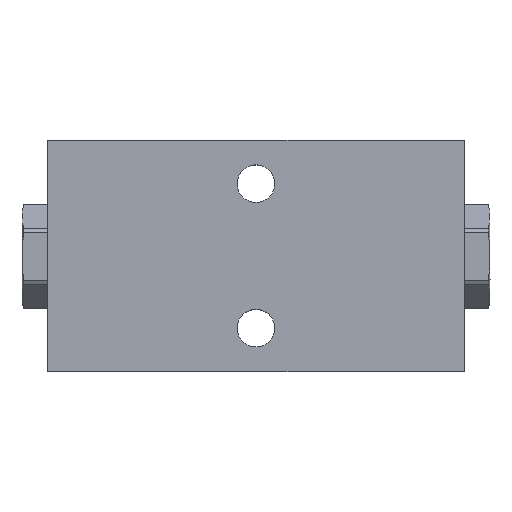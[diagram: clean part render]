
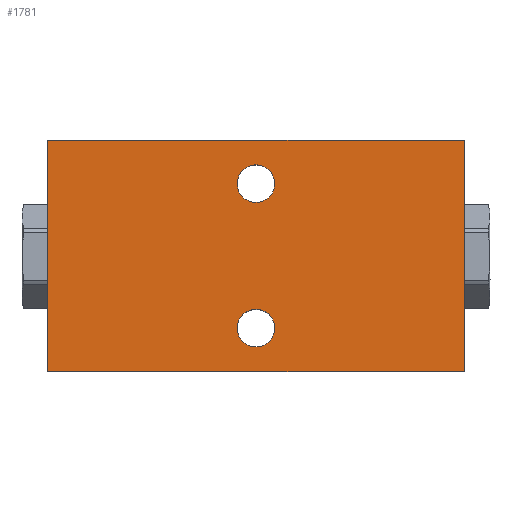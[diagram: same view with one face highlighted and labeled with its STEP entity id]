
A CAD part, top view. The second image highlights one B-rep face of the part: STEP entity #1781.
In plain terms, the highlighted planar face has unit normal (0, 0, 1).
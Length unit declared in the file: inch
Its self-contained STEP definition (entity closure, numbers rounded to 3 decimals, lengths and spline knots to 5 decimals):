
#1=CARTESIAN_POINT('',(2.25,2.03,0.));
#2=DIRECTION('',(0.,0.,1.));
#3=DIRECTION('',(1.,0.,0.));
#4=AXIS2_PLACEMENT_3D('',#1,#2,#3);
#6=CARTESIAN_POINT('',(2.25,2.03,0.));
#7=DIRECTION('',(0.,0.,1.));
#8=DIRECTION('',(-1.,0.,0.));
#9=AXIS2_PLACEMENT_3D('',#6,#7,#8);
#11=CARTESIAN_POINT('',(2.25,0.47,0.));
#12=DIRECTION('',(0.,0.,1.));
#13=DIRECTION('',(1.,0.,0.));
#14=AXIS2_PLACEMENT_3D('',#11,#12,#13);
#16=CARTESIAN_POINT('',(2.25,0.47,0.));
#17=DIRECTION('',(0.,0.,1.));
#18=DIRECTION('',(-1.,0.,0.));
#19=AXIS2_PLACEMENT_3D('',#16,#17,#18);
#21=DIRECTION('',(0.,-1.,0.));
#22=VECTOR('',#21,2.5);
#23=CARTESIAN_POINT('',(0.,2.5,0.));
#24=LINE('',#23,#22);
#49=DIRECTION('',(1.,0.,0.));
#50=VECTOR('',#49,4.5);
#51=CARTESIAN_POINT('',(0.,0.,0.));
#52=LINE('',#51,#50);
#77=DIRECTION('',(0.,1.,0.));
#78=VECTOR('',#77,2.5);
#79=CARTESIAN_POINT('',(4.5,0.,0.));
#80=LINE('',#79,#78);
#95=DIRECTION('',(-1.,0.,0.));
#96=VECTOR('',#95,4.5);
#97=CARTESIAN_POINT('',(4.5,2.5,0.));
#98=LINE('',#97,#96);
#1445=CARTESIAN_POINT('',(0.,2.5,0.));
#1446=CARTESIAN_POINT('',(0.,0.,0.));
#1447=VERTEX_POINT('',#1445);
#1448=VERTEX_POINT('',#1446);
#1449=CARTESIAN_POINT('',(4.5,2.5,0.));
#1450=VERTEX_POINT('',#1449);
#1451=CARTESIAN_POINT('',(4.5,0.,0.));
#1452=VERTEX_POINT('',#1451);
#1453=CARTESIAN_POINT('',(2.453,2.03,0.));
#1454=CARTESIAN_POINT('',(2.047,2.03,0.));
#1455=VERTEX_POINT('',#1453);
#1456=VERTEX_POINT('',#1454);
#1457=CARTESIAN_POINT('',(2.453,0.47,0.));
#1458=CARTESIAN_POINT('',(2.047,0.47,0.));
#1459=VERTEX_POINT('',#1457);
#1460=VERTEX_POINT('',#1458);
#1754=CARTESIAN_POINT('',(0.,0.,0.));
#1755=DIRECTION('',(0.,0.,-1.));
#1756=DIRECTION('',(-1.,0.,0.));
#1757=AXIS2_PLACEMENT_3D('',#1754,#1755,#1756);
#1758=PLANE('',#1757);
#1760=ORIENTED_EDGE('',*,*,#1759,.F.);
#1762=ORIENTED_EDGE('',*,*,#1761,.F.);
#1764=ORIENTED_EDGE('',*,*,#1763,.F.);
#1766=ORIENTED_EDGE('',*,*,#1765,.F.);
#1767=EDGE_LOOP('',(#1760,#1762,#1764,#1766));
#1768=FACE_OUTER_BOUND('',#1767,.F.);
#1770=ORIENTED_EDGE('',*,*,#1769,.T.);
#1772=ORIENTED_EDGE('',*,*,#1771,.T.);
#1773=EDGE_LOOP('',(#1770,#1772));
#1774=FACE_BOUND('',#1773,.F.);
#1776=ORIENTED_EDGE('',*,*,#1775,.T.);
#1778=ORIENTED_EDGE('',*,*,#1777,.T.);
#1779=EDGE_LOOP('',(#1776,#1778));
#1780=FACE_BOUND('',#1779,.F.);
#1781=ADVANCED_FACE('',(#1768,#1774,#1780),#1758,.F.);
#5=CIRCLE('',#4,0.203);
#10=CIRCLE('',#9,0.203);
#15=CIRCLE('',#14,0.203);
#20=CIRCLE('',#19,0.203);
#1759=EDGE_CURVE('',#1447,#1448,#24,.T.);
#1761=EDGE_CURVE('',#1450,#1447,#98,.T.);
#1763=EDGE_CURVE('',#1452,#1450,#80,.T.);
#1765=EDGE_CURVE('',#1448,#1452,#52,.T.);
#1769=EDGE_CURVE('',#1455,#1456,#5,.T.);
#1771=EDGE_CURVE('',#1456,#1455,#10,.T.);
#1775=EDGE_CURVE('',#1459,#1460,#15,.T.);
#1777=EDGE_CURVE('',#1460,#1459,#20,.T.);
